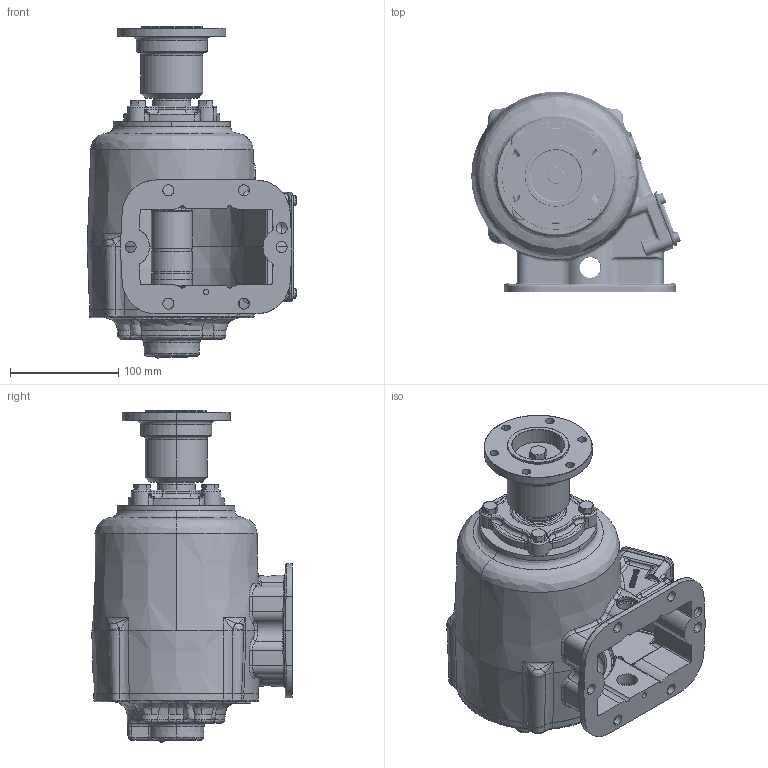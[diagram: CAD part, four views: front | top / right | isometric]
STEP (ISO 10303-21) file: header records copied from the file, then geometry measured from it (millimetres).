
FILE_DESCRIPTION (( 'STEP AP203' ), '1' );
FILE_NAME ('CS6B-A6XXX-H32X.STEP', '2023-05-18T18:46:32', ( '' ), ( '' ), 'SwSTEP 2.0', 'SolidWorks 2021', '' );
FILE_SCHEMA (( 'CONFIG_CONTROL_DESIGN' ));
Length unit declared in the file: inch
Products named in the file (26): 12T34003; CS6B-A6XXX-H32X; 21T36512; 19T36174; 11T37790; 16T41119; Detail E - 2 Output_011117_Config1; 19T41118; 10T21017; 26t36175; 21T36473; 19T38266; 06T37372_dummy; 21T20092; 15T41683a; 11T36124-1; 21T36511; 12T36751; 19T41756; 01T37072-01; 24T36894; 24T36470; 15T36717; 24T27240; 25T21684; 14T37378
Assembly tree (39 placements, depth 3):
  CS6B-A6XXX-H32X
    01T37072-01
    16T41119
    15T36717
    12T34003
    25T21684  x4
    19T41118  x4
    19T36174  x4
    11T36124-1
    24T36894
    10T21017
    26t36175  x2
    21T36473
    21T36511
    21T36512
    24T27240
    19T38266
    Detail E - 2 Output_011117_Config1
      06T37372_dummy
      10T21017
      11T37790
      15T41683a
      24T36470
      19T41756  x4
      12T36751
      21T20092
    14T37378
Bounding box: 193.76 x 185.25 x 307.07 mm (x, y, z)
Volume: 1701989.2 mm3; surface area: 512620.2 mm2
Topology: 38 solids, 38 shells, 3324 faces, 8655 edges, 5389 vertices
Faces by surface type: bspline 1019, plane 837, cylinder 711, cone 486, torus 222, sphere 49
Entity records: 186113 total; most frequent: CARTESIAN_POINT 118955, ORIENTED_EDGE 15202, DIRECTION 10356, EDGE_CURVE 7601, VERTEX_POINT 4804, AXIS2_PLACEMENT_3D 4002, EDGE_LOOP 3197, B_SPLINE_CURVE_WITH_KNOTS 3136
